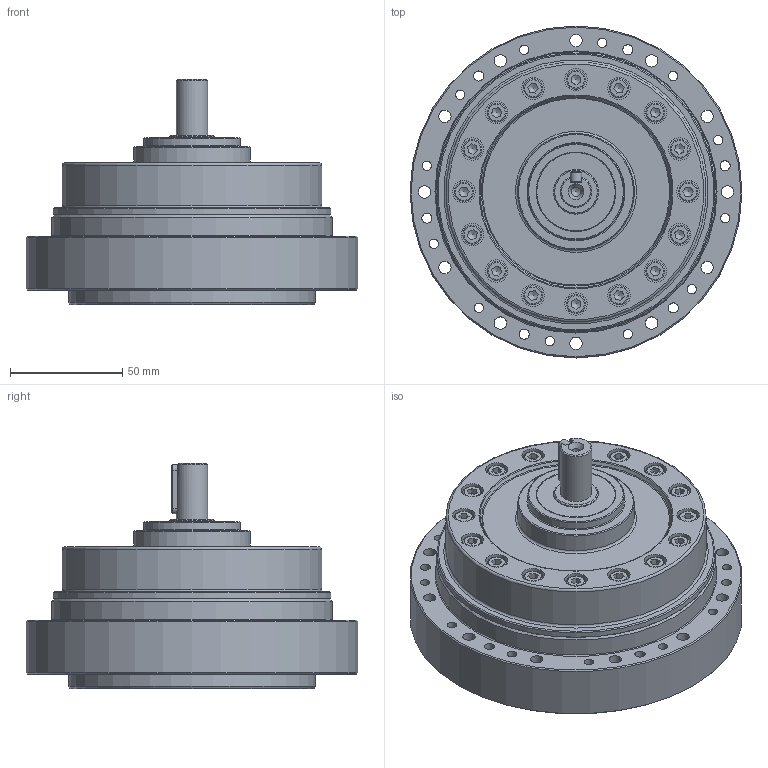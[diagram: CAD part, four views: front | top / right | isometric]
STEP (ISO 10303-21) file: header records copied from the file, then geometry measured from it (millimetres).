
FILE_DESCRIPTION(/* description */ (''),/* implementation_level */ '2;1');
FILE_NAME(/* name */ 'C:\Users\yin210\Desktop\CPU\32\DSC-32-AJ-M.stp',/* time_stamp */ '2022-05-17T18:53:39+08:00',/* author */ ('yin210'),/* organization */ (''),/* preprocessor_version */ 'ST-DEVELOPER v15.2',/* originating_system */ 'Autodesk Inventor 2014',/* authorisation */ '');
FILE_SCHEMA (('AUTOMOTIVE_DESIGN { 1 0 10303 214 3 1 1 }'));
Length unit declared in the file: centimetre
Products named in the file (1): DSC-32-AJ-M
Bounding box: 148 x 148 x 100.5 mm (x, y, z)
Volume: 822432.5 mm3; surface area: 83030.1 mm2
Topology: 1 solids, 5 shells, 357 faces, 834 edges, 540 vertices
Faces by surface type: plane 170, cylinder 103, cone 57, torus 27
Full cylindrical faces by diameter (mm): 4.134 x13, 4.5 x6, 4.917 x12, 5.5 x12, 6.647 x8, 8 x6, 8.5 x16, 10 x16, 14 x1, 20 x1, 35 x1, 43 x1, 52 x1, 80 x1, 110 x1, 116 x1, 124 x1, 125 x1, 148 x1
Entity records: 8903 total; most frequent: CARTESIAN_POINT 1628, DIRECTION 1465, ORIENTED_EDGE 1172, EDGE_LOOP 651, AXIS2_PLACEMENT_3D 620, EDGE_CURVE 586, VERTEX_POINT 471, ADVANCED_FACE 357
